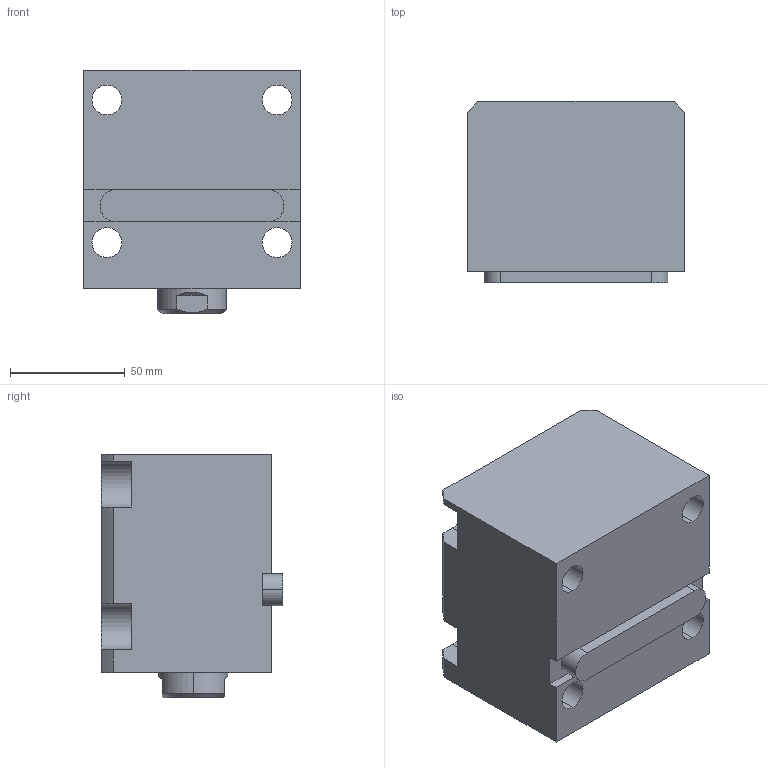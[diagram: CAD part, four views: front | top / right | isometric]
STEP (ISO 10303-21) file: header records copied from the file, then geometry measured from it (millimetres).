
FILE_DESCRIPTION (( 'STEP AP203' ), '1' );
FILE_NAME ('CHTB-LA50-35N.STEP', '2018-05-18T00:29:39', ( '' ), ( '' ), 'SwSTEP 2.0', 'SolidWorks 2015', '' );
FILE_SCHEMA (( 'CONFIG_CONTROL_DESIGN' ));
Length unit declared in the file: millimetre
Products named in the file (4): CHTB-LA50-35N; 掛极LA50-35N; 活塞杆LA50-35N; CHTM-SDMA50QG
Assembly tree (3 placements, depth 2):
  CHTB-LA50-35N
    掛极LA50-35N
    活塞杆LA50-35N
    CHTM-SDMA50QG
Bounding box: 94 x 79 x 106 mm (x, y, z)
Volume: 561175.2 mm3; surface area: 103971.1 mm2
Topology: 3 solids, 3 shells, 202 faces, 542 edges, 358 vertices
Faces by surface type: cylinder 96, plane 53, cone 23, torus 16, bspline 14
Entity records: 11255 total; most frequent: CARTESIAN_POINT 5992, ORIENTED_EDGE 1072, DIRECTION 958, EDGE_CURVE 536, AXIS2_PLACEMENT_3D 377, VERTEX_POINT 358, EDGE_LOOP 234, VECTOR 204
